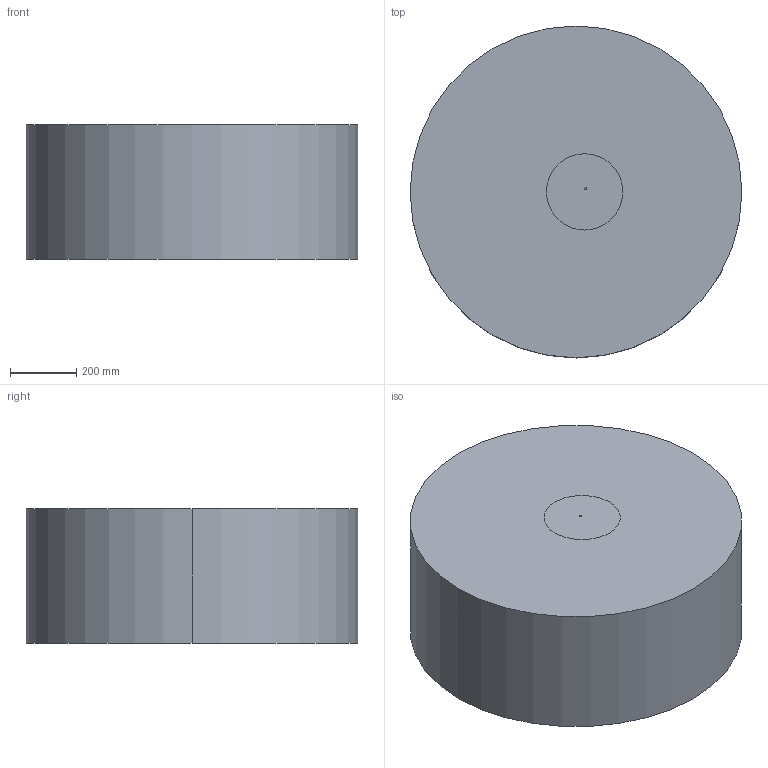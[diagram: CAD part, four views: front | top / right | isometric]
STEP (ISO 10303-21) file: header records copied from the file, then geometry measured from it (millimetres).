
FILE_DESCRIPTION((''),'2;1');
FILE_NAME('LC_ASM','2021-07-08T11:46:31',('CHJOOST1'),(''),'CREO PARAMETRIC BY PTC INC, 2017110','CREO PARAMETRIC BY PTC INC, 2017110','');
FILE_SCHEMA(('CONFIG_CONTROL_DESIGN'));
Length unit declared in the file: metre
Products named in the file (8): ELLIPTICAL_SPIRAL; KURVE; CORE; CONNECTOR; PLATE; AIRBOX_L; AIRBOXLARGE; LC_ASM
Assembly tree (12 placements, depth 2):
  LC_ASM
    ELLIPTICAL_SPIRAL
    KURVE  x2
    CORE
    CONNECTOR  x3
    PLATE  x3
    AIRBOX_L
    AIRBOXLARGE
Bounding box: 1000 x 1000 x 405.5 mm (x, y, z)
Volume: 318478955.6 mm3; surface area: 3597492.9 mm2
Topology: 12 solids, 13 shells, 78 faces, 150 edges, 100 vertices
Faces by surface type: cylinder 30, plane 28, bspline 12, torus 8
Entity records: 13152 total; most frequent: CARTESIAN_POINT 11694, DIRECTION 314, ORIENTED_EDGE 240, AXIS2_PLACEMENT_3D 146, EDGE_CURVE 120, VERTEX_POINT 80, CIRCLE 80, EDGE_LOOP 64
